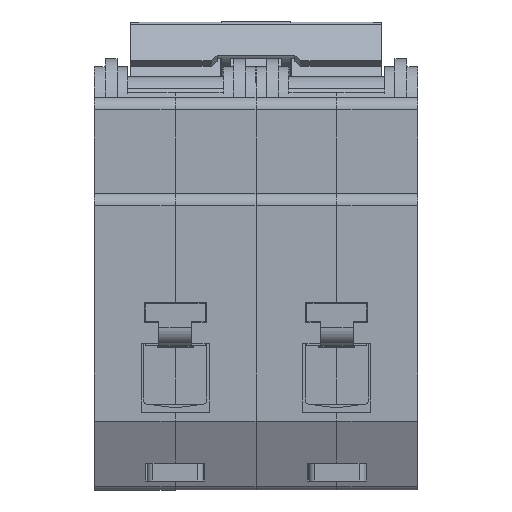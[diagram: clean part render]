
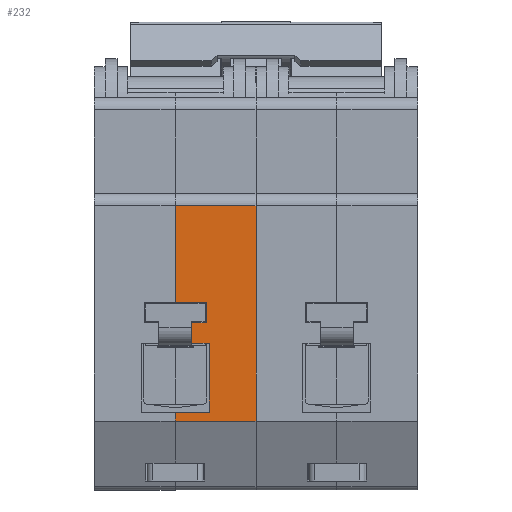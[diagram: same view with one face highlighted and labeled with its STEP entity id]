
A CAD part, front view. The second image highlights one B-rep face of the part: STEP entity #232.
In plain terms, the highlighted planar face has unit normal (0, -1, 0) as drawn and (1, 0, 0) by its records, which use the part's own axes.
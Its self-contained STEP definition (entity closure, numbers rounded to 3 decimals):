
#150 = EDGE_CURVE ( 'NONE', #236, #10974, #24365, .T. ) ;
#151 = ORIENTED_EDGE ( 'NONE', *, *, #10972, .F. ) ;
#152 = ORIENTED_EDGE ( 'NONE', *, *, #153, .F. ) ;
#153 = EDGE_CURVE ( 'NONE', #214, #10864, #24361, .T. ) ;
#201 = EDGE_CURVE ( 'NONE', #228, #226, #24488, .T. ) ;
#202 = ORIENTED_EDGE ( 'NONE', *, *, #203, .F. ) ;
#203 = EDGE_CURVE ( 'NONE', #9478, #228, #24481, .T. ) ;
#204 = ORIENTED_EDGE ( 'NONE', *, *, #9477, .F. ) ;
#205 = ORIENTED_EDGE ( 'NONE', *, *, #231, .T. ) ;
#214 = VERTEX_POINT ( 'NONE', #24571 ) ;
#215 = ORIENTED_EDGE ( 'NONE', *, *, #216, .F. ) ;
#216 = EDGE_CURVE ( 'NONE', #217, #214, #24567, .T. ) ;
#217 = VERTEX_POINT ( 'NONE', #24560 ) ;
#218 = ORIENTED_EDGE ( 'NONE', *, *, #219, .F. ) ;
#219 = EDGE_CURVE ( 'NONE', #220, #217, #24558, .T. ) ;
#220 = VERTEX_POINT ( 'NONE', #24551 ) ;
#221 = ORIENTED_EDGE ( 'NONE', *, *, #222, .F. ) ;
#222 = EDGE_CURVE ( 'NONE', #223, #220, #24546, .T. ) ;
#223 = VERTEX_POINT ( 'NONE', #24540 ) ;
#224 = ORIENTED_EDGE ( 'NONE', *, *, #225, .F. ) ;
#225 = EDGE_CURVE ( 'NONE', #226, #223, #24535, .T. ) ;
#226 = VERTEX_POINT ( 'NONE', #24530 ) ;
#227 = ORIENTED_EDGE ( 'NONE', *, *, #201, .F. ) ;
#228 = VERTEX_POINT ( 'NONE', #24529 ) ;
#229 = VERTEX_POINT ( 'NONE', #24527 ) ;
#231 = EDGE_CURVE ( 'NONE', #9474, #229, #24522, .T. ) ;
#232 = ADVANCED_FACE ( 'NONE', ( #24517 ), #24513, .F. ) ;
#233 = EDGE_LOOP ( 'NONE', ( #234, #237, #151, #152, #215, #218, #221, #224, #227, #202, #204, #205 ) ) ;
#234 = ORIENTED_EDGE ( 'NONE', *, *, #235, .T. ) ;
#235 = EDGE_CURVE ( 'NONE', #229, #236, #24635, .T. ) ;
#236 = VERTEX_POINT ( 'NONE', #24631 ) ;
#237 = ORIENTED_EDGE ( 'NONE', *, *, #150, .T. ) ;
#9474 = VERTEX_POINT ( 'NONE', #16565 ) ;
#9477 = EDGE_CURVE ( 'NONE', #9474, #9478, #16622, .T. ) ;
#9478 = VERTEX_POINT ( 'NONE', #16618 ) ;
#10864 = VERTEX_POINT ( 'NONE', #19143 ) ;
#10972 = EDGE_CURVE ( 'NONE', #10864, #10974, #19633, .T. ) ;
#10974 = VERTEX_POINT ( 'NONE', #19691 ) ;
#16565 = CARTESIAN_POINT ( 'NONE',  ( 67.5, 13.5, 54. ) ) ;
#16618 = CARTESIAN_POINT ( 'NONE',  ( 67.5, 13.5, 52.5 ) ) ;
#16619 = DIRECTION ( 'NONE',  ( 0., 0., -1. ) ) ;
#16620 = VECTOR ( 'NONE', #16619, 1000. ) ;
#16621 = CARTESIAN_POINT ( 'NONE',  ( 67.5, 13.5, 16. ) ) ;
#16622 = LINE ( 'NONE', #16621, #16620 ) ;
#19143 = CARTESIAN_POINT ( 'NONE',  ( 67.5, 13.5, 34.2 ) ) ;
#19633 = LINE ( 'NONE', #19694, #19693 ) ;
#19691 = CARTESIAN_POINT ( 'NONE',  ( 67.5, 13.5, 18. ) ) ;
#19692 = DIRECTION ( 'NONE',  ( 0., 0., -1. ) ) ;
#19693 = VECTOR ( 'NONE', #19692, 1000. ) ;
#19694 = CARTESIAN_POINT ( 'NONE',  ( 67.5, 13.5, 16. ) ) ;
#24358 = DIRECTION ( 'NONE',  ( 0., 1., 0. ) ) ;
#24359 = VECTOR ( 'NONE', #24358, 1000. ) ;
#24360 = CARTESIAN_POINT ( 'NONE',  ( 67.5, 13.5, 34.2 ) ) ;
#24361 = LINE ( 'NONE', #24360, #24359 ) ;
#24362 = DIRECTION ( 'NONE',  ( 0., 1., 0. ) ) ;
#24363 = VECTOR ( 'NONE', #24362, 1000. ) ;
#24364 = CARTESIAN_POINT ( 'NONE',  ( 67.5, 13.5, 18. ) ) ;
#24365 = LINE ( 'NONE', #24364, #24363 ) ;
#24476 = DIRECTION ( 'NONE',  ( 0., -1., 0. ) ) ;
#24477 = VECTOR ( 'NONE', #24476, 1000. ) ;
#24478 = CARTESIAN_POINT ( 'NONE',  ( 67.5, 7.8, 52.5 ) ) ;
#24481 = LINE ( 'NONE', #24478, #24477 ) ;
#24485 = DIRECTION ( 'NONE',  ( 0., 0., -1. ) ) ;
#24486 = VECTOR ( 'NONE', #24485, 1000. ) ;
#24487 = CARTESIAN_POINT ( 'NONE',  ( 67.5, 7.8, 41. ) ) ;
#24488 = LINE ( 'NONE', #24487, #24486 ) ;
#24513 = PLANE ( 'NONE',  #24643 ) ;
#24517 = FACE_OUTER_BOUND ( 'NONE', #233, .T. ) ;
#24519 = DIRECTION ( 'NONE',  ( 0., -1., 0. ) ) ;
#24520 = VECTOR ( 'NONE', #24519, 1000. ) ;
#24521 = CARTESIAN_POINT ( 'NONE',  ( 67.5, 13.5, 54. ) ) ;
#24522 = LINE ( 'NONE', #24521, #24520 ) ;
#24527 = CARTESIAN_POINT ( 'NONE',  ( 67.5, 0., 54. ) ) ;
#24529 = CARTESIAN_POINT ( 'NONE',  ( 67.5, 7.8, 52.5 ) ) ;
#24530 = CARTESIAN_POINT ( 'NONE',  ( 67.5, 7.8, 41. ) ) ;
#24531 = DIRECTION ( 'NONE',  ( 0., 1., 0. ) ) ;
#24532 = VECTOR ( 'NONE', #24531, 1000. ) ;
#24534 = CARTESIAN_POINT ( 'NONE',  ( 67.5, 10.8, 41. ) ) ;
#24535 = LINE ( 'NONE', #24534, #24532 ) ;
#24540 = CARTESIAN_POINT ( 'NONE',  ( 67.5, 10.8, 41. ) ) ;
#24542 = DIRECTION ( 'NONE',  ( 0., 0., -1. ) ) ;
#24543 = VECTOR ( 'NONE', #24542, 1000. ) ;
#24545 = CARTESIAN_POINT ( 'NONE',  ( 67.5, 10.8, 37.6 ) ) ;
#24546 = LINE ( 'NONE', #24545, #24543 ) ;
#24551 = CARTESIAN_POINT ( 'NONE',  ( 67.5, 10.8, 37.6 ) ) ;
#24552 = DIRECTION ( 'NONE',  ( 0., -1., 0. ) ) ;
#24554 = VECTOR ( 'NONE', #24552, 1000. ) ;
#24556 = CARTESIAN_POINT ( 'NONE',  ( 67.5, 8.3, 37.6 ) ) ;
#24558 = LINE ( 'NONE', #24556, #24554 ) ;
#24560 = CARTESIAN_POINT ( 'NONE',  ( 67.5, 8.3, 37.6 ) ) ;
#24562 = DIRECTION ( 'NONE',  ( 0., 0., -1. ) ) ;
#24564 = VECTOR ( 'NONE', #24562, 1000. ) ;
#24565 = CARTESIAN_POINT ( 'NONE',  ( 67.5, 8.3, 34.2 ) ) ;
#24567 = LINE ( 'NONE', #24565, #24564 ) ;
#24571 = CARTESIAN_POINT ( 'NONE',  ( 67.5, 8.3, 34.2 ) ) ;
#24631 = CARTESIAN_POINT ( 'NONE',  ( 67.5, 0., 18. ) ) ;
#24632 = DIRECTION ( 'NONE',  ( 0., 0., -1. ) ) ;
#24633 = VECTOR ( 'NONE', #24632, 1000. ) ;
#24634 = CARTESIAN_POINT ( 'NONE',  ( 67.5, 0., 16. ) ) ;
#24635 = LINE ( 'NONE', #24634, #24633 ) ;
#24640 = DIRECTION ( 'NONE',  ( 0., 0., 1. ) ) ;
#24641 = DIRECTION ( 'NONE',  ( -1., 0., 0. ) ) ;
#24642 = CARTESIAN_POINT ( 'NONE',  ( 67.5, 13.5, 16. ) ) ;
#24643 = AXIS2_PLACEMENT_3D ( 'NONE', #24642, #24641, #24640 ) ;
